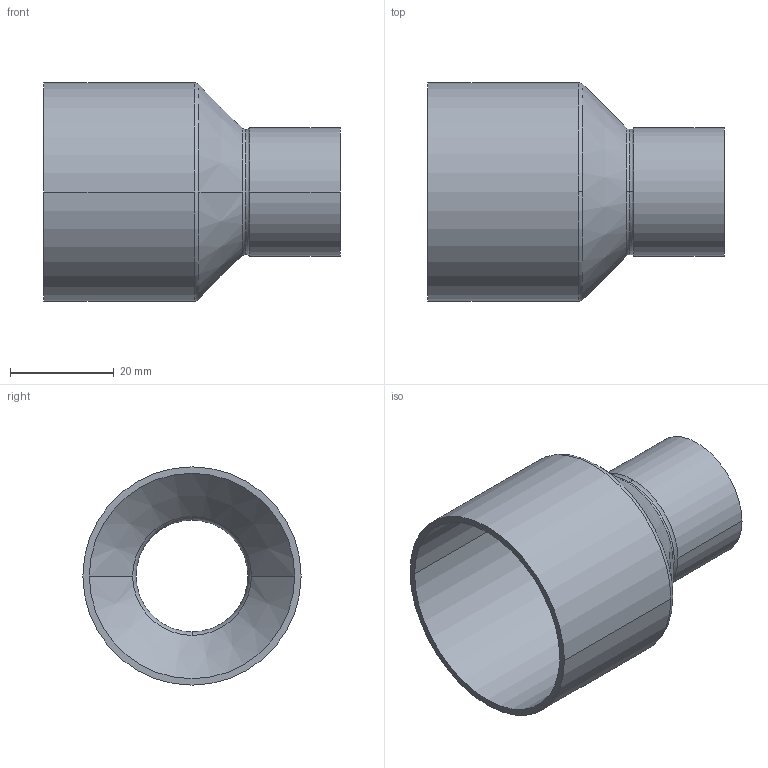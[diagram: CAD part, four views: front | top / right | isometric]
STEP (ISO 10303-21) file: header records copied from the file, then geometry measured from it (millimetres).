
FILE_DESCRIPTION((''),'2;1');
FILE_NAME('G:\Technics\CAD\Bauteile\Serie 15243\152434222.stp','2005-10-21T12:49:43',('boden'),(''),'Autodesk Inventor 8','Autodesk Inventor 8','');
FILE_SCHEMA(('AUTOMOTIVE_DESIGN { 1 0 10303 214 1 1 1 1 }'));
Length unit declared in the file: millimetre
Products named in the file (1): 152434222
Bounding box: 57 x 42 x 42 mm (x, y, z)
Volume: 7979 mm3; surface area: 13018.9 mm2
Topology: 1 solids, 1 shells, 24 faces, 60 edges, 38 vertices
Faces by surface type: cylinder 8, torus 6, bspline 4, cone 4, plane 2
Entity records: 931 total; most frequent: CARTESIAN_POINT 299, DIRECTION 150, ORIENTED_EDGE 120, AXIS2_PLACEMENT_3D 69, EDGE_CURVE 60, CIRCLE 48, VERTEX_POINT 38, EDGE_LOOP 26
